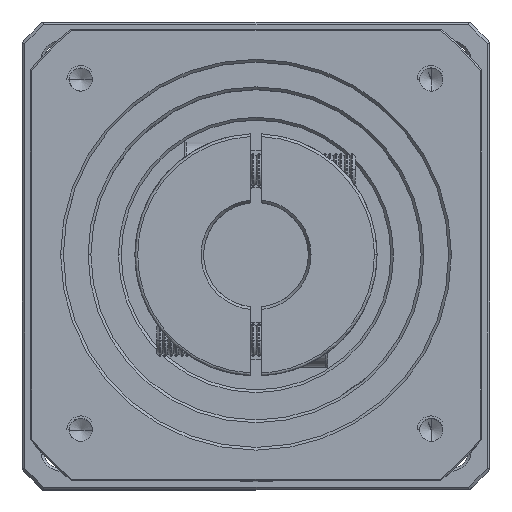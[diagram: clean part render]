
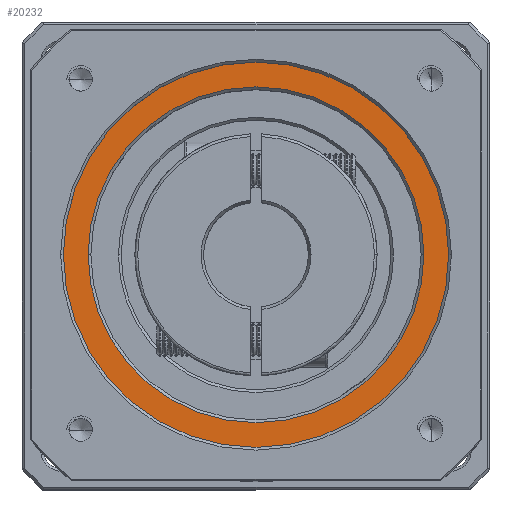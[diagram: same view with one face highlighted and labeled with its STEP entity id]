
A CAD part, top view. The second image highlights one B-rep face of the part: STEP entity #20232.
In plain terms, the highlighted planar face has unit normal (0, 0, 1).
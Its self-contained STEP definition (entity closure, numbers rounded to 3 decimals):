
#2012 = DIRECTION ( 'NONE',  ( 1., 0., 0. ) ) ;
#2051 = DIRECTION ( 'NONE',  ( 0., 0., 1. ) ) ;
#2148 = CARTESIAN_POINT ( 'NONE',  ( -84.068, 35.876, 21.012 ) ) ;
#2664 = PLANE ( 'NONE',  #75147 ) ;
#2997 = FACE_BOUND ( 'NONE', #88505, .T. ) ;
#3102 = FACE_OUTER_BOUND ( 'NONE', #82224, .T. ) ;
#7451 = CARTESIAN_POINT ( 'NONE',  ( -84.068, 35.876, 21.012 ) ) ;
#9681 = EDGE_CURVE ( 'NONE', #73732, #104159, #57971, .T. ) ;
#20232 = ADVANCED_FACE ( 'NONE', ( #3102, #2997 ), #2664, .T. ) ;
#25222 = CARTESIAN_POINT ( 'NONE',  ( -84.068, 35.876, 21.012 ) ) ;
#33831 = DIRECTION ( 'NONE',  ( 1., 0., 0. ) ) ;
#38123 = EDGE_CURVE ( 'NONE', #107495, #69415, #49897, .T. ) ;
#39355 = AXIS2_PLACEMENT_3D ( 'NONE', #7451, #87296, #87171 ) ;
#39874 = CIRCLE ( 'NONE', #68071, 30.5 ) ;
#42732 = DIRECTION ( 'NONE',  ( 0., 0., -1. ) ) ;
#43812 = EDGE_CURVE ( 'NONE', #104159, #73732, #44038, .T. ) ;
#44038 = CIRCLE ( 'NONE', #76402, 35. ) ;
#44479 = EDGE_CURVE ( 'NONE', #69415, #107495, #39874, .T. ) ;
#48100 = CARTESIAN_POINT ( 'NONE',  ( -119.068, 35.876, 21.012 ) ) ;
#49897 = CIRCLE ( 'NONE', #73332, 30.5 ) ;
#57971 = CIRCLE ( 'NONE', #39355, 35. ) ;
#68071 = AXIS2_PLACEMENT_3D ( 'NONE', #93195, #42732, #101722 ) ;
#69415 = VERTEX_POINT ( 'NONE', #95045 ) ;
#70230 = ORIENTED_EDGE ( 'NONE', *, *, #9681, .T. ) ;
#70403 = DIRECTION ( 'NONE',  ( 0., 0., -1. ) ) ;
#73332 = AXIS2_PLACEMENT_3D ( 'NONE', #92992, #70403, #92856 ) ;
#73732 = VERTEX_POINT ( 'NONE', #48100 ) ;
#75147 = AXIS2_PLACEMENT_3D ( 'NONE', #2148, #2051, #2012 ) ;
#76402 = AXIS2_PLACEMENT_3D ( 'NONE', #25222, #84174, #33831 ) ;
#78063 = CARTESIAN_POINT ( 'NONE',  ( -49.068, 35.876, 21.012 ) ) ;
#82224 = EDGE_LOOP ( 'NONE', ( #97267, #70230 ) ) ;
#84174 = DIRECTION ( 'NONE',  ( 0., 0., 1. ) ) ;
#87171 = DIRECTION ( 'NONE',  ( 1., 0., 0. ) ) ;
#87296 = DIRECTION ( 'NONE',  ( 0., 0., 1. ) ) ;
#87578 = CARTESIAN_POINT ( 'NONE',  ( -53.568, 35.876, 21.012 ) ) ;
#88505 = EDGE_LOOP ( 'NONE', ( #99425, #96935 ) ) ;
#92856 = DIRECTION ( 'NONE',  ( 1., 0., 0. ) ) ;
#92992 = CARTESIAN_POINT ( 'NONE',  ( -84.068, 35.876, 21.012 ) ) ;
#93195 = CARTESIAN_POINT ( 'NONE',  ( -84.068, 35.876, 21.012 ) ) ;
#95045 = CARTESIAN_POINT ( 'NONE',  ( -114.568, 35.876, 21.012 ) ) ;
#96935 = ORIENTED_EDGE ( 'NONE', *, *, #44479, .T. ) ;
#97267 = ORIENTED_EDGE ( 'NONE', *, *, #43812, .T. ) ;
#99425 = ORIENTED_EDGE ( 'NONE', *, *, #38123, .T. ) ;
#101722 = DIRECTION ( 'NONE',  ( 1., 0., 0. ) ) ;
#104159 = VERTEX_POINT ( 'NONE', #78063 ) ;
#107495 = VERTEX_POINT ( 'NONE', #87578 ) ;
